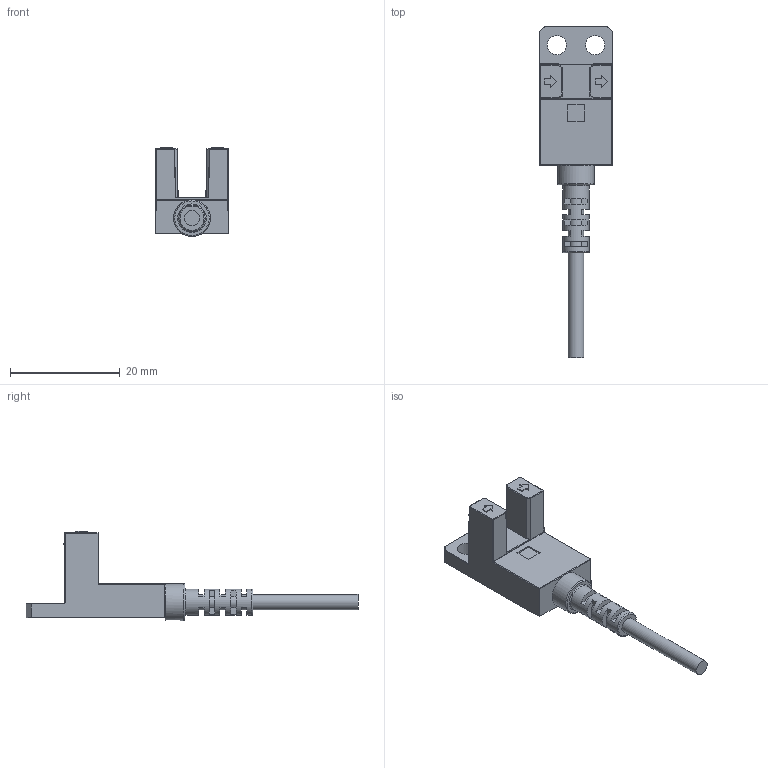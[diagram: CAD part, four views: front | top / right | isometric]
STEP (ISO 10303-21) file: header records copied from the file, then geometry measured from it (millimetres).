
FILE_DESCRIPTION(/* description */ (''),/* implementation_level */ '2;1');
FILE_NAME(/* name */ 'F:\HUAYIFENG\02)HUAYIFENG_3D_MODE\HUAYIFENG_3D_MODE_\X2\69FD578B51497535\X0\\HUAYIFENG_3D_MODE_槽型光电_LU67X\X2\7CFB5217\X0\\槽型光电_LU67系列_销售用\LU674\LU674.stp',/* time_stamp */ '2017-11-28T14:54:45+08:00',/* author */ ('fengjiarun'),/* organization */ (''),/* preprocessor_version */ 'ST-DEVELOPER v16.5',/* originating_system */ 'Autodesk Inventor 2017',/* authorisation */ '');
FILE_SCHEMA (('AUTOMOTIVE_DESIGN { 1 0 10303 214 3 1 1 }'));
Length unit declared in the file: millimetre
Products named in the file (1): 零件24
Bounding box: 13.4 x 60.6 x 16.25 mm (x, y, z)
Volume: 1481.3 mm3; surface area: 3096.2 mm2
Topology: 1 solids, 3 shells, 218 faces, 507 edges, 313 vertices
Faces by surface type: plane 115, cylinder 64, bspline 14, torus 12, cone 7, sphere 6
Full cylindrical faces by diameter (mm): 2.8 x3, 3.5 x2, 4.7 x1, 4.8 x1, 6.7 x1
Entity records: 6948 total; most frequent: CARTESIAN_POINT 1954, DIRECTION 1058, ORIENTED_EDGE 958, EDGE_CURVE 478, AXIS2_PLACEMENT_3D 377, LINE 304, VECTOR 304, VERTEX_POINT 303
